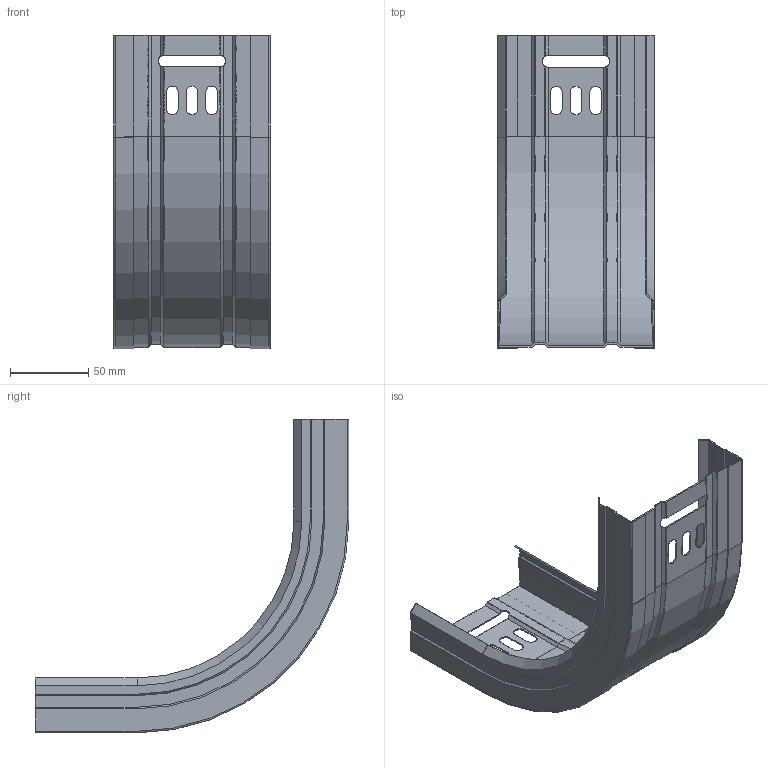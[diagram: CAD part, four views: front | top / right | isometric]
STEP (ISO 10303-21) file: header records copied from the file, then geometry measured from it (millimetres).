
FILE_DESCRIPTION (( 'STEP AP203' ), '1' );
FILE_NAME ('ERE_CONCAVA 100x35.step', '2023-07-27T18:53:20', ( '' ), ( '' ), 'SwSTEP 2.0', 'SolidWorks 2022', '' );
FILE_SCHEMA (( 'CONFIG_CONTROL_DESIGN' ));
Length unit declared in the file: millimetre
Products named in the file (3): ERE_CONCAVA 100x35; ERE_BASE CC_100x35; ERE_LATERAL CC_35
Assembly tree (3 placements, depth 2):
  ERE_CONCAVA 100x35
    ERE_BASE CC_100x35
    ERE_LATERAL CC_35  x2
Bounding box: 100 x 200 x 200 mm (x, y, z)
Volume: 51653.9 mm3; surface area: 131376.2 mm2
Topology: 3 solids, 3 shells, 202 faces, 528 edges, 328 vertices
Faces by surface type: plane 134, cylinder 42, cone 22, torus 4
Entity records: 5081 total; most frequent: CARTESIAN_POINT 874, ORIENTED_EDGE 820, DIRECTION 808, EDGE_CURVE 410, VECTOR 300, LINE 300, VERTEX_POINT 256, AXIS2_PLACEMENT_3D 254
